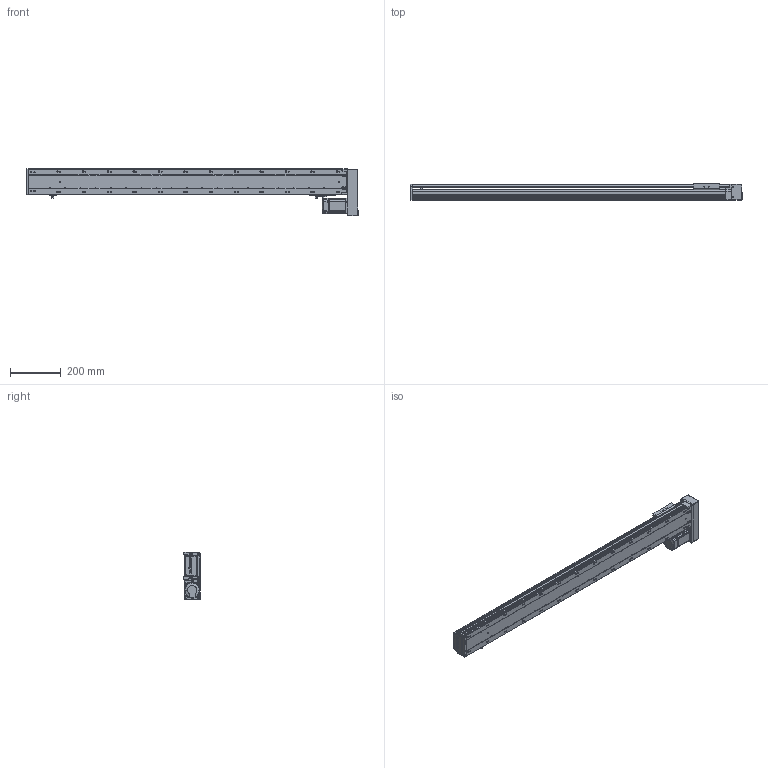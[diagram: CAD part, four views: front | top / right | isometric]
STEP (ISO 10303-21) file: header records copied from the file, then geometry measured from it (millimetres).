
FILE_DESCRIPTION (( 'STEP AP203' ), '1' );
FILE_NAME ('RY100S-L1620-950-RK(15双轨).SLDASM_1050.step', '2021-03-12T06:51:53', ( '盈信电脑' ), ( '东莞市道滘镇水果街19号' ), 'SwSTEP 2.0', 'SolidWorks 2012', '' );
FILE_SCHEMA (( 'CONFIG_CONTROL_DESIGN' ));
Products named in the file (15): RY100S左右折电机罩（15双轨）; 侂狟200W萇儂; 1; RY100綴裔啣; RY100S转折电机端支撑座(15双轨); RY100俋离覜茼え; 滅袉蝶18-24; 滅袉蝶18-10; RY100S-950-RK转折型材上盖(15双轨)_1050; 覜茼ん672; RY100S铝滑块（15双轨单滑块）; RY100S-950-RK转折型材底座(15双轨)_1050; RY100S转折电机安装板（15双轨）; RY100S-L1620-950-RK(15邧寢).SLDASM_1050; RY100S-左右折电机端-(15双轨)_550
Assembly tree (17 placements, depth 4):
  RY100S-L1620-950-RK(15邧寢).SLDASM_1050
    RY100S-950-RK转折型材底座(15双轨)_1050
    RY100S-950-RK转折型材上盖(15双轨)_1050
    RY100S铝滑块（15双轨单滑块）
    覜茼ん672  x3
    滅袉蝶18-10  x2
    RY100俋离覜茼え
    RY100S转折电机端支撑座(15双轨)
    滅袉蝶18-24
    RY100綴裔啣
    RY100S-左右折电机端-(15双轨)_550
      侂狟200W萇儂
        1
      RY100S左右折电机罩（15双轨）
      RY100S转折电机安装板（15双轨）
Bounding box: 1307.5 x 65 x 186.1 mm (x, y, z)
Volume: 2540316.3 mm3; surface area: 1111927.2 mm2
Topology: 15 solids, 15 shells, 2534 faces, 7141 edges, 4642 vertices
Faces by surface type: plane 1296, cylinder 1013, cone 137, bspline 88
Entity records: 84126 total; most frequent: CARTESIAN_POINT 21662, ORIENTED_EDGE 13090, DIRECTION 12210, EDGE_CURVE 6545, VERTEX_POINT 4310, AXIS2_PLACEMENT_3D 4137, VECTOR 3936, LINE 3936
